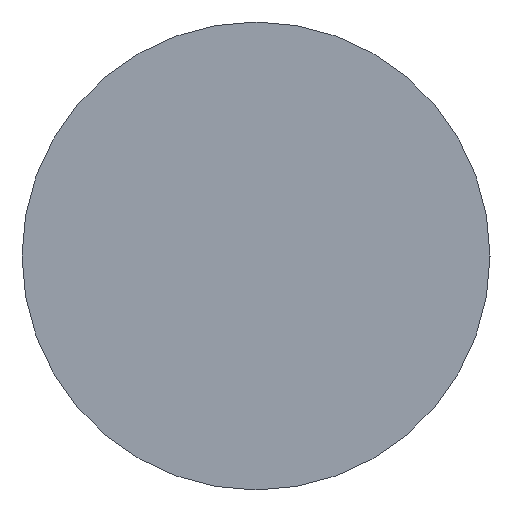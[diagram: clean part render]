
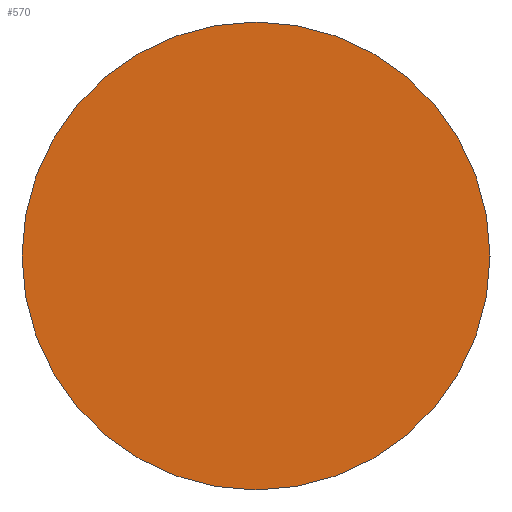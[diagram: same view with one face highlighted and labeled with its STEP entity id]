
A CAD part, left-side view. The second image highlights one B-rep face of the part: STEP entity #570.
In plain terms, the highlighted planar face has unit normal (-1, 0, 0).
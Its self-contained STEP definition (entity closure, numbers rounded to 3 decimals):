
#16=PLANE('',#664);
#94=FACE_OUTER_BOUND('',#122,.T.);
#122=EDGE_LOOP('',(#476,#477));
#179=CIRCLE('',#665,2.745);
#180=CIRCLE('',#666,2.745);
#247=VERTEX_POINT('',#1042);
#248=VERTEX_POINT('',#1043);
#329=EDGE_CURVE('',#247,#248,#179,.T.);
#330=EDGE_CURVE('',#248,#247,#180,.T.);
#476=ORIENTED_EDGE('',*,*,#329,.F.);
#477=ORIENTED_EDGE('',*,*,#330,.F.);
#570=ADVANCED_FACE('',(#94),#16,.T.);
#664=AXIS2_PLACEMENT_3D('',#1041,#841,#842);
#665=AXIS2_PLACEMENT_3D('',#1044,#843,#844);
#666=AXIS2_PLACEMENT_3D('',#1045,#845,#846);
#841=DIRECTION('center_axis',(-1.,0.,0.));
#842=DIRECTION('ref_axis',(0.,0.,1.));
#843=DIRECTION('center_axis',(1.,0.,0.));
#844=DIRECTION('ref_axis',(0.,0.,-1.));
#845=DIRECTION('center_axis',(1.,0.,0.));
#846=DIRECTION('ref_axis',(0.,0.,-1.));
#1041=CARTESIAN_POINT('Origin',(0.,2.745,0.));
#1042=CARTESIAN_POINT('',(0.,2.745,0.));
#1043=CARTESIAN_POINT('',(0.,-2.745,0.));
#1044=CARTESIAN_POINT('Origin',(0.,0.,0.));
#1045=CARTESIAN_POINT('Origin',(0.,0.,0.));
